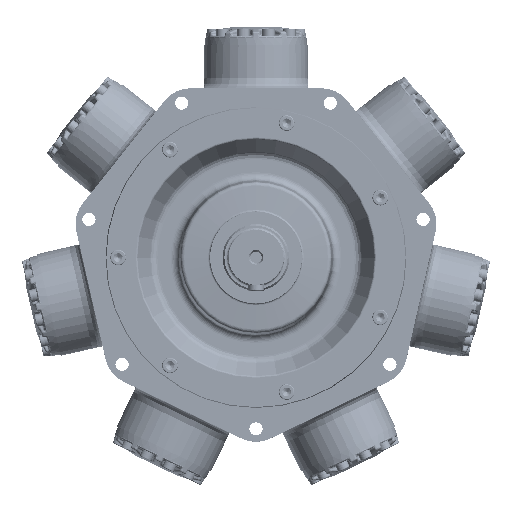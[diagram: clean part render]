
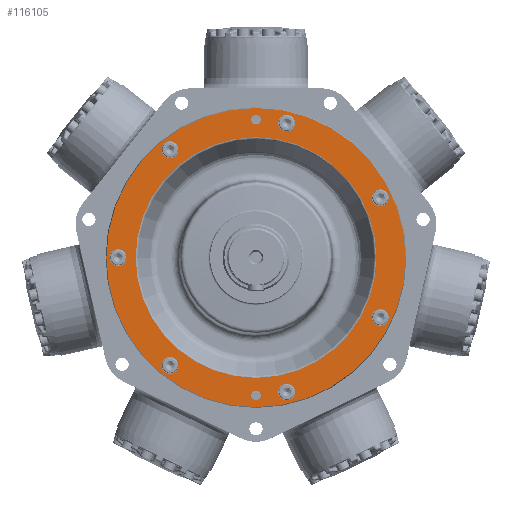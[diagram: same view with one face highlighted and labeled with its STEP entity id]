
A CAD part, top view. The second image highlights one B-rep face of the part: STEP entity #116105.
In plain terms, the highlighted planar face has unit normal (0, 0, 1).
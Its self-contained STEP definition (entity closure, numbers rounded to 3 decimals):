
#1464=FACE_BOUND('',#33261,.T.);
#1465=FACE_BOUND('',#33262,.T.);
#1466=FACE_BOUND('',#33263,.T.);
#1467=FACE_BOUND('',#33264,.T.);
#1468=FACE_BOUND('',#33265,.T.);
#1469=FACE_BOUND('',#33266,.T.);
#1470=FACE_BOUND('',#33267,.T.);
#1471=FACE_BOUND('',#33268,.T.);
#1472=FACE_BOUND('',#33269,.T.);
#1473=FACE_BOUND('',#33270,.T.);
#14277=PLANE('',#124460);
#20374=CIRCLE('',#124433,7.176);
#20376=CIRCLE('',#124436,7.176);
#20378=CIRCLE('',#124439,12.7);
#20380=CIRCLE('',#124442,12.7);
#20381=CIRCLE('',#124444,12.7);
#20383=CIRCLE('',#124447,12.7);
#20384=CIRCLE('',#124449,12.7);
#20385=CIRCLE('',#124451,12.7);
#20387=CIRCLE('',#124454,12.7);
#20388=CIRCLE('',#124456,227.279);
#20391=CIRCLE('',#124461,182.808);
#26150=FACE_OUTER_BOUND('',#33260,.T.);
#33260=EDGE_LOOP('',(#90782));
#33261=EDGE_LOOP('',(#90783));
#33262=EDGE_LOOP('',(#90784));
#33263=EDGE_LOOP('',(#90785));
#33264=EDGE_LOOP('',(#90786));
#33265=EDGE_LOOP('',(#90787));
#33266=EDGE_LOOP('',(#90788));
#33267=EDGE_LOOP('',(#90789));
#33268=EDGE_LOOP('',(#90790));
#33269=EDGE_LOOP('',(#90791));
#33270=EDGE_LOOP('',(#90792));
#48166=VERTEX_POINT('',#270686);
#48168=VERTEX_POINT('',#270692);
#48170=VERTEX_POINT('',#270698);
#48172=VERTEX_POINT('',#270704);
#48173=VERTEX_POINT('',#270708);
#48175=VERTEX_POINT('',#270714);
#48176=VERTEX_POINT('',#270718);
#48177=VERTEX_POINT('',#270722);
#48179=VERTEX_POINT('',#270728);
#48180=VERTEX_POINT('',#270732);
#48183=VERTEX_POINT('',#270742);
#62922=EDGE_CURVE('',#48166,#48166,#20374,.T.);
#62925=EDGE_CURVE('',#48168,#48168,#20376,.T.);
#62929=EDGE_CURVE('',#48170,#48170,#20378,.T.);
#62932=EDGE_CURVE('',#48172,#48172,#20380,.T.);
#62934=EDGE_CURVE('',#48173,#48173,#20381,.T.);
#62937=EDGE_CURVE('',#48175,#48175,#20383,.T.);
#62939=EDGE_CURVE('',#48176,#48176,#20384,.T.);
#62941=EDGE_CURVE('',#48177,#48177,#20385,.T.);
#62944=EDGE_CURVE('',#48179,#48179,#20387,.T.);
#62945=EDGE_CURVE('',#48180,#48180,#20388,.T.);
#62950=EDGE_CURVE('',#48183,#48183,#20391,.T.);
#90782=ORIENTED_EDGE('',*,*,#62945,.F.);
#90783=ORIENTED_EDGE('',*,*,#62922,.T.);
#90784=ORIENTED_EDGE('',*,*,#62925,.T.);
#90785=ORIENTED_EDGE('',*,*,#62929,.T.);
#90786=ORIENTED_EDGE('',*,*,#62932,.T.);
#90787=ORIENTED_EDGE('',*,*,#62934,.T.);
#90788=ORIENTED_EDGE('',*,*,#62937,.T.);
#90789=ORIENTED_EDGE('',*,*,#62939,.T.);
#90790=ORIENTED_EDGE('',*,*,#62941,.T.);
#90791=ORIENTED_EDGE('',*,*,#62944,.T.);
#90792=ORIENTED_EDGE('',*,*,#62950,.F.);
#116105=ADVANCED_FACE('',(#26150,#1464,#1465,#1466,#1467,#1468,#1469,#1470,
#1471,#1472,#1473),#14277,.T.);
#124433=AXIS2_PLACEMENT_3D('',#270687,#142650,#142651);
#124436=AXIS2_PLACEMENT_3D('',#270693,#142657,#142658);
#124439=AXIS2_PLACEMENT_3D('',#270700,#142665,#142666);
#124442=AXIS2_PLACEMENT_3D('',#270706,#142672,#142673);
#124444=AXIS2_PLACEMENT_3D('',#270710,#142677,#142678);
#124447=AXIS2_PLACEMENT_3D('',#270716,#142684,#142685);
#124449=AXIS2_PLACEMENT_3D('',#270720,#142689,#142690);
#124451=AXIS2_PLACEMENT_3D('',#270724,#142694,#142695);
#124454=AXIS2_PLACEMENT_3D('',#270730,#142701,#142702);
#124456=AXIS2_PLACEMENT_3D('',#270733,#142705,#142706);
#124460=AXIS2_PLACEMENT_3D('',#270741,#142715,#142716);
#124461=AXIS2_PLACEMENT_3D('',#270743,#142717,#142718);
#142650=DIRECTION('center_axis',(0.,0.,
-1.));
#142651=DIRECTION('ref_axis',(1.,0.,0.));
#142657=DIRECTION('center_axis',(0.,0.,
-1.));
#142658=DIRECTION('ref_axis',(1.,0.,0.));
#142665=DIRECTION('center_axis',(0.,0.,
-1.));
#142666=DIRECTION('ref_axis',(-0.623,0.782,0.));
#142672=DIRECTION('center_axis',(0.,0.,
-1.));
#142673=DIRECTION('ref_axis',(0.223,0.975,0.));
#142677=DIRECTION('center_axis',(0.,0.,
-1.));
#142678=DIRECTION('ref_axis',(0.901,0.434,0.));
#142684=DIRECTION('center_axis',(0.,0.,
-1.));
#142685=DIRECTION('ref_axis',(0.901,-0.434,0.));
#142689=DIRECTION('center_axis',(0.,0.,
-1.));
#142690=DIRECTION('ref_axis',(0.223,-0.975,0.));
#142694=DIRECTION('center_axis',(0.,0.,
-1.));
#142695=DIRECTION('ref_axis',(-0.623,-0.782,0.));
#142701=DIRECTION('center_axis',(0.,0.,
-1.));
#142702=DIRECTION('ref_axis',(-1.,0.,0.));
#142705=DIRECTION('center_axis',(0.,0.,
-1.));
#142706=DIRECTION('ref_axis',(0.,1.,0.));
#142715=DIRECTION('center_axis',(0.,0.,
1.));
#142716=DIRECTION('ref_axis',(0.,1.,0.));
#142717=DIRECTION('center_axis',(0.,0.,
1.));
#142718=DIRECTION('ref_axis',(1.,0.,0.));
#270686=CARTESIAN_POINT('',(-7.175,209.55,123.104));
#270687=CARTESIAN_POINT('Origin',(0.,209.55,123.104));
#270692=CARTESIAN_POINT('',(-7.176,-209.55,123.104));
#270693=CARTESIAN_POINT('Origin',(0.,-209.55,123.104));
#270698=CARTESIAN_POINT('',(-122.734,153.904,123.104));
#270700=CARTESIAN_POINT('Origin',(-130.652,163.833,123.104));
#270704=CARTESIAN_POINT('',(43.803,191.915,123.104));
#270706=CARTESIAN_POINT('Origin',(46.629,204.296,123.104));
#270708=CARTESIAN_POINT('',(177.356,85.41,123.104));
#270710=CARTESIAN_POINT('Origin',(188.798,90.92,123.104));
#270714=CARTESIAN_POINT('',(177.356,-85.41,123.104));
#270716=CARTESIAN_POINT('Origin',(188.798,-90.92,123.104));
#270718=CARTESIAN_POINT('',(43.803,-191.915,123.104));
#270720=CARTESIAN_POINT('Origin',(46.629,-204.296,123.104));
#270722=CARTESIAN_POINT('',(-122.734,-153.904,123.104));
#270724=CARTESIAN_POINT('Origin',(-130.652,-163.833,123.104));
#270728=CARTESIAN_POINT('',(-196.85,0.,123.104));
#270730=CARTESIAN_POINT('Origin',(-209.55,0.,123.104));
#270732=CARTESIAN_POINT('',(0.,-227.279,123.104));
#270733=CARTESIAN_POINT('Origin',(0.,0.,
123.104));
#270741=CARTESIAN_POINT('Origin',(-206.375,0.,123.104));
#270742=CARTESIAN_POINT('',(0.,-182.808,123.104));
#270743=CARTESIAN_POINT('Origin',(0.,0.,
123.104));
